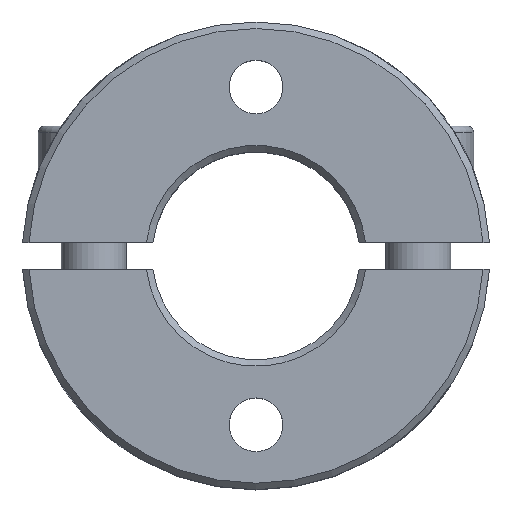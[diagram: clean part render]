
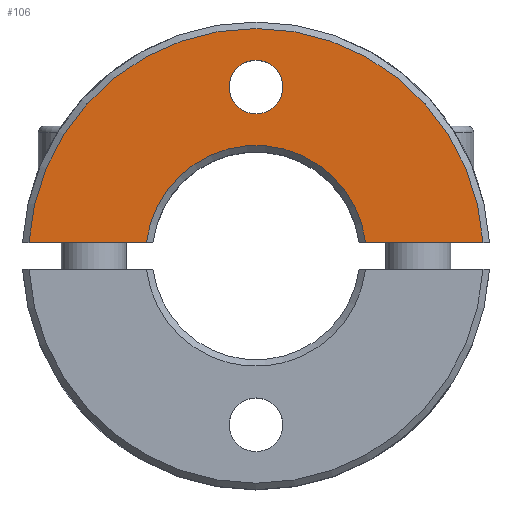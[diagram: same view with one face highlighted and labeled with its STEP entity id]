
A CAD part, top view. The second image highlights one B-rep face of the part: STEP entity #106.
In plain terms, the highlighted planar face has unit normal (0, 0, 1).
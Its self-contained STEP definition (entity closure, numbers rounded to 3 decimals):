
#106 = ADVANCED_FACE( '', ( #215, #216 ), #217, .T. );
#215 = FACE_OUTER_BOUND( '', #365, .T. );
#216 = FACE_BOUND( '', #366, .T. );
#217 = PLANE( '', #367 );
#365 = EDGE_LOOP( '', ( #638, #639, #640, #641 ) );
#366 = EDGE_LOOP( '', ( #642 ) );
#367 = AXIS2_PLACEMENT_3D( '', #643, #644, #645 );
#638 = ORIENTED_EDGE( '', *, *, #865, .F. );
#639 = ORIENTED_EDGE( '', *, *, #904, .T. );
#640 = ORIENTED_EDGE( '', *, *, #899, .F. );
#641 = ORIENTED_EDGE( '', *, *, #854, .F. );
#642 = ORIENTED_EDGE( '', *, *, #894, .T. );
#643 = CARTESIAN_POINT( '', ( 0., 8.5, 6.5 ) );
#644 = DIRECTION( '', ( 0., 0., 1. ) );
#645 = DIRECTION( '', ( 1., 0., 0. ) );
#854 = EDGE_CURVE( '', #988, #989, #990, .T. );
#865 = EDGE_CURVE( '', #1007, #988, #1009, .T. );
#894 = EDGE_CURVE( '', #1059, #1059, #1060, .F. );
#899 = EDGE_CURVE( '', #989, #1068, #1069, .T. );
#904 = EDGE_CURVE( '', #1007, #1068, #1075, .T. );
#988 = VERTEX_POINT( '', #1404 );
#989 = VERTEX_POINT( '', #1405 );
#990 = CIRCLE( '', #1406, 8.5 );
#1007 = VERTEX_POINT( '', #1437 );
#1009 = LINE( '', #1442, #1443 );
#1059 = VERTEX_POINT( '', #1563 );
#1060 = CIRCLE( '', #1564, 2.067 );
#1068 = VERTEX_POINT( '', #1573 );
#1069 = LINE( '', #1574, #1575 );
#1075 = CIRCLE( '', #1586, 17.5 );
#1404 = CARTESIAN_POINT( '', ( 8.435, 1.05, 6.5 ) );
#1405 = CARTESIAN_POINT( '', ( -8.435, 1.05, 6.5 ) );
#1406 = AXIS2_PLACEMENT_3D( '', #1716, #1717, #1718 );
#1437 = CARTESIAN_POINT( '', ( 17.468, 1.05, 6.5 ) );
#1442 = CARTESIAN_POINT( '', ( 20., 1.05, 6.5 ) );
#1443 = VECTOR( '', #1730, 1000. );
#1563 = CARTESIAN_POINT( '', ( 2.067, 13., 6.5 ) );
#1564 = AXIS2_PLACEMENT_3D( '', #1774, #1775, #1776 );
#1573 = CARTESIAN_POINT( '', ( -17.468, 1.05, 6.5 ) );
#1574 = CARTESIAN_POINT( '', ( 0., 1.05, 6.5 ) );
#1575 = VECTOR( '', #1787, 1000. );
#1586 = AXIS2_PLACEMENT_3D( '', #1793, #1794, #1795 );
#1716 = CARTESIAN_POINT( '', ( 0., 0., 6.5 ) );
#1717 = DIRECTION( '', ( 0., 0., 1. ) );
#1718 = DIRECTION( '', ( 1., 0., 0. ) );
#1730 = DIRECTION( '', ( -1., 0., 0. ) );
#1774 = CARTESIAN_POINT( '', ( 0., 13., 6.5 ) );
#1775 = DIRECTION( '', ( 0., 0., 1. ) );
#1776 = DIRECTION( '', ( 1., 0., 0. ) );
#1787 = DIRECTION( '', ( -1., 0., 0. ) );
#1793 = CARTESIAN_POINT( '', ( 0., 0., 6.5 ) );
#1794 = DIRECTION( '', ( 0., 0., 1. ) );
#1795 = DIRECTION( '', ( 1., 0., 0. ) );
